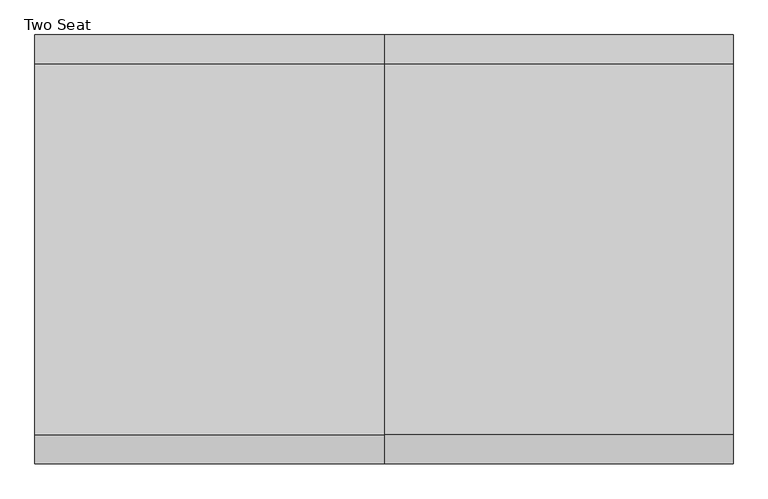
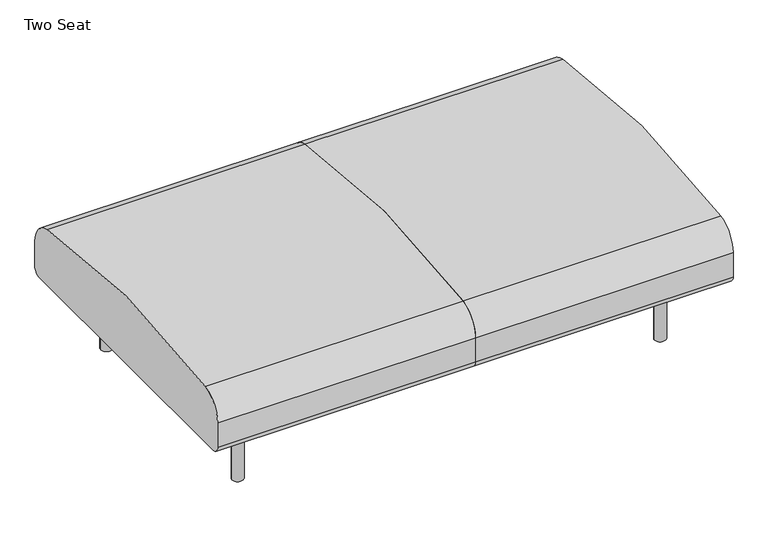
"""IFC4 building model written with IfcOpenShell, lengths in millimetres: furniture geometry, Coalesse_AM_Seating_LoungeChair_Sistema_LegBase_TwoSeat : Two Seat."""

from ifc_helpers import new_model, si_unit, point, frame, frame_2d, origin, origin_with_axes, place, context, project, spatial, polyline, circle_curve, trimmed, segment, composite_curve, outline, extrude, source, transform, mapped, element, save


def two_seat_9187e65d(model_context):
    return source(origin(), model_context, "Body", "SweptSolid", [
        extrude(outline(composite_curve([segment(trimmed(circle_curve(frame_2d((989.1765227, 335.9943389)), 6.096), [point((995.2725227, 335.9943389))], [point((983.0805227, 335.9943389))], False, "CARTESIAN"), True, "CONTINUOUS"), segment(trimmed(circle_curve(frame_2d((989.1765227, 335.9943389)), 6.096), [point((983.0805227, 335.9943389))], [point((995.2725227, 335.9943389))], False, "CARTESIAN"), True, "CONTINUOUS")], self_intersect=False)), origin_with_axes(), (0.0, 0.0, 1.0), 4.3662291),
        extrude(outline(composite_curve([segment(trimmed(circle_curve(frame_2d((989.1765227, -327.2630889)), 6.096), [point((995.2725227, -327.2630889))], [point((983.0805227, -327.2630889))], False, "CARTESIAN"), True, "CONTINUOUS"), segment(trimmed(circle_curve(frame_2d((989.1765227, -327.2630889)), 6.096), [point((983.0805227, -327.2630889))], [point((995.2725227, -327.2630889))], False, "CARTESIAN"), True, "CONTINUOUS")], self_intersect=False)), origin_with_axes(), (0.0, 0.0, 1.0), 4.3662291),
        extrude(outline(composite_curve([segment(polyline([(157.0399209, 1001.756375), (201.7356243, 1001.756375)]), True, "CONTINUOUS"), segment(trimmed(circle_curve(frame_2d((201.7356243, 998.708375)), 3.048), [point((201.7356243, 1001.756375))], [point((204.7836243, 998.708375))], False, "CARTESIAN"), True, "CONTINUOUS"), segment(polyline([(204.7836243, 998.708375), (204.7836243, 979.366199)]), True, "CONTINUOUS"), segment(trimmed(circle_curve(frame_2d((201.7356243, 979.366199)), 3.048), [point((204.7836243, 979.366199))], [point((201.7356243, 976.318199))], False, "CARTESIAN"), True, "CONTINUOUS"), segment(polyline([(201.7356243, 976.318199), (157.1249936, 976.318199)]), True, "CONTINUOUS"), segment(trimmed(circle_curve(frame_2d((157.1249936, 979.4512718)), 3.1330728), [point((157.1249936, 976.318199))], [point((153.9919209, 979.4512718))], False, "CARTESIAN"), True, "CONTINUOUS"), segment(polyline([(153.9919209, 979.4512718), (153.9919209, 998.708375)]), True, "CONTINUOUS"), segment(trimmed(circle_curve(frame_2d((157.0399209, 998.708375)), 3.048), [point((153.9919209, 998.708375))], [point((157.0399209, 1001.756375))], False, "CARTESIAN"), True, "CONTINUOUS")], self_intersect=False)), frame((0.0, 222.3519802, 0.0), z_axis=(0.0, 1.0, 0.0), x_axis=(0.0, 0.0, 1.0)), (0.0, 0.0, 1.0), 92.6273161),
        extrude(outline(composite_curve([segment(polyline([(157.0399209, 1001.756375), (201.7356243, 1001.756375)]), True, "CONTINUOUS"), segment(trimmed(circle_curve(frame_2d((201.7356243, 998.708375)), 3.048), [point((201.7356243, 1001.756375))], [point((204.7836243, 998.708375))], False, "CARTESIAN"), True, "CONTINUOUS"), segment(polyline([(204.7836243, 998.708375), (204.7836243, 979.366199)]), True, "CONTINUOUS"), segment(trimmed(circle_curve(frame_2d((201.7356243, 979.366199)), 3.048), [point((204.7836243, 979.366199))], [point((201.7356243, 976.318199))], False, "CARTESIAN"), True, "CONTINUOUS"), segment(polyline([(201.7356243, 976.318199), (157.1249936, 976.318199)]), True, "CONTINUOUS"), segment(trimmed(circle_curve(frame_2d((157.1249936, 979.4512718)), 3.1330728), [point((157.1249936, 976.318199))], [point((153.9919209, 979.4512718))], False, "CARTESIAN"), True, "CONTINUOUS"), segment(polyline([(153.9919209, 979.4512718), (153.9919209, 998.708375)]), True, "CONTINUOUS"), segment(trimmed(circle_curve(frame_2d((157.0399209, 998.708375)), 3.048), [point((153.9919209, 998.708375))], [point((157.0399209, 1001.756375))], False, "CARTESIAN"), True, "CONTINUOUS")], self_intersect=False)), frame((0.0, -314.9792963, 0.0), z_axis=(0.0, 1.0, 0.0), x_axis=(0.0, 0.0, 1.0)), (0.0, 0.0, 1.0), 92.6273161),
        extrude(outline(composite_curve([segment(trimmed(circle_curve(frame_2d((176.3356606, 966.5259944)), 3.048), [point((179.3836606, 966.5259944))], [point((176.3356606, 963.4779944))], False, "CARTESIAN"), True, "CONTINUOUS"), segment(polyline([(176.3356606, 963.4779944), (157.0399209, 963.4779944)]), True, "CONTINUOUS"), segment(trimmed(circle_curve(frame_2d((157.0399209, 966.5259944)), 3.048), [point((157.0399209, 963.4779944))], [point((153.9919209, 966.5259944))], False, "CARTESIAN"), True, "CONTINUOUS"), segment(polyline([(153.9919209, 966.5259944), (153.9919209, 1011.2135501)]), True, "CONTINUOUS"), segment(trimmed(circle_curve(frame_2d((157.056462, 1011.2135501)), 3.0645412), [point((153.9919209, 1011.2135501))], [point((157.056462, 1014.2780913))], False, "CARTESIAN"), True, "CONTINUOUS"), segment(polyline([(157.056462, 1014.2780913), (176.3356606, 1014.2780913)]), True, "CONTINUOUS"), segment(trimmed(circle_curve(frame_2d((176.3356606, 1011.2300913)), 3.048), [point((176.3356606, 1014.2780913))], [point((179.3836606, 1011.2300913))], False, "CARTESIAN"), True, "CONTINUOUS"), segment(polyline([(179.3836606, 1011.2300913), (179.3836606, 966.5259944)]), True, "CONTINUOUS")], self_intersect=False)), frame((0.0, -222.3519802, 0.0), z_axis=(0.0, 1.0, 0.0), x_axis=(0.0, 0.0, 1.0)), (0.0, 0.0, 1.0), 444.7039604),
        extrude(outline(composite_curve([segment(trimmed(circle_curve(frame_2d((989.1765227, 332.3095741)), 16.51), [point((1005.6865227, 332.3095741))], [point((972.6665227, 332.3095741))], False, "CARTESIAN"), True, "CONTINUOUS"), segment(trimmed(circle_curve(frame_2d((989.1765227, 332.3095741)), 16.51), [point((972.6665227, 332.3095741))], [point((1005.6865227, 332.3095741))], False, "CARTESIAN"), True, "CONTINUOUS")], self_intersect=False)), frame((0.0, 0.0, 4.3662291), z_axis=(0.0, 0.0, 1.0), x_axis=(1.0, 0.0, 0.0)), (0.0, 0.0, 1.0), 200.1037709),
        extrude(outline(composite_curve([segment(trimmed(circle_curve(frame_2d((988.7796477, -327.5470741)), 16.51), [point((1005.2896477, -327.5470741))], [point((972.2696477, -327.5470741))], False, "CARTESIAN"), True, "CONTINUOUS"), segment(trimmed(circle_curve(frame_2d((988.7796477, -327.5470741)), 16.51), [point((972.2696477, -327.5470741))], [point((1005.2896477, -327.5470741))], False, "CARTESIAN"), True, "CONTINUOUS")], self_intersect=False)), frame((0.0, 0.0, 4.3662291), z_axis=(0.0, 0.0, 1.0), x_axis=(1.0, 0.0, 0.0)), (0.0, 0.0, 1.0), 200.1037709),
        extrude(outline(composite_curve([segment(trimmed(circle_curve(frame_2d((-438.9184381, 226.822)), 22.352), [point((-438.9184381, 204.47))], [point((-461.2704381, 226.822))], False, "CARTESIAN"), True, "CONTINUOUS"), segment(polyline([(-461.2704381, 226.822), (-461.2704381, 301.4421993)]), True, "CONTINUOUS"), segment(trimmed(circle_curve(frame_2d((-385.0704381, 301.4421993)), 76.2), [point((-461.2704381, 301.4421993))], [point((-398.9279534, 376.3715612))], False, "CARTESIAN"), True, "CONTINUOUS"), segment(trimmed(circle_curve(frame_2d((-0.3717831, -1778.6727457)), 2191.5891461), [point((-398.9279534, 376.3715612))], [point((397.0993513, 376.5719464))], False, "CARTESIAN"), True, "CONTINUOUS"), segment(trimmed(circle_curve(frame_2d((383.2795619, 301.6356173)), 76.2), [point((397.0993513, 376.5719464))], [point((459.4795619, 301.6356173))], False, "CARTESIAN"), True, "CONTINUOUS"), segment(polyline([(459.4795619, 301.6356173), (459.4795619, 226.7871991)]), True, "CONTINUOUS"), segment(trimmed(circle_curve(frame_2d((437.1623628, 226.7871991)), 22.3171991), [point((459.4795619, 226.7871991))], [point((437.1623628, 204.47))], False, "CARTESIAN"), True, "CONTINUOUS"), segment(polyline([(437.1623628, 204.47), (-438.9184381, 204.47)]), True, "CONTINUOUS")], self_intersect=False)), frame((-374.8034773, 0.0, 0.0), z_axis=(1.0, 0.0, 0.0), x_axis=(0.0, 1.0, 0.0)), (0.0, 0.0, 1.0), 749.3),
        extrude(outline(composite_curve([segment(trimmed(circle_curve(frame_2d((-438.9184381, 226.822)), 22.352), [point((-438.9184381, 204.47))], [point((-461.2704381, 226.822))], False, "CARTESIAN"), True, "CONTINUOUS"), segment(polyline([(-461.2704381, 226.822), (-461.2704381, 301.4421993)]), True, "CONTINUOUS"), segment(trimmed(circle_curve(frame_2d((-385.0704381, 301.4421993)), 76.2), [point((-461.2704381, 301.4421993))], [point((-398.9279534, 376.3715612))], False, "CARTESIAN"), True, "CONTINUOUS"), segment(trimmed(circle_curve(frame_2d((-0.3717831, -1778.6727457)), 2191.5891461), [point((-398.9279534, 376.3715612))], [point((397.0993513, 376.5719464))], False, "CARTESIAN"), True, "CONTINUOUS"), segment(trimmed(circle_curve(frame_2d((383.2795619, 301.6356173)), 76.2), [point((397.0993513, 376.5719464))], [point((459.4795619, 301.6356173))], False, "CARTESIAN"), True, "CONTINUOUS"), segment(polyline([(459.4795619, 301.6356173), (459.4795619, 226.7871991)]), True, "CONTINUOUS"), segment(trimmed(circle_curve(frame_2d((437.1623628, 226.7871991)), 22.3171991), [point((459.4795619, 226.7871991))], [point((437.1623628, 204.47))], False, "CARTESIAN"), True, "CONTINUOUS"), segment(polyline([(437.1623628, 204.47), (-438.9184381, 204.47)]), True, "CONTINUOUS")], self_intersect=False)), frame((374.4965227, 0.0, 0.0), z_axis=(1.0, 0.0, 0.0), x_axis=(0.0, 1.0, 0.0)), (0.0, 0.0, 1.0), 749.3),
        extrude(outline(composite_curve([segment(trimmed(circle_curve(frame_2d((-240.1834773, 335.9943389)), 6.096), [point((-246.2794773, 335.9943389))], [point((-234.0874773, 335.9943389))], False, "CARTESIAN"), True, "CONTINUOUS"), segment(trimmed(circle_curve(frame_2d((-240.1834773, 335.9943389)), 6.096), [point((-234.0874773, 335.9943389))], [point((-246.2794773, 335.9943389))], False, "CARTESIAN"), True, "CONTINUOUS")], self_intersect=False)), origin_with_axes(), (0.0, 0.0, 1.0), 4.3662291),
        extrude(outline(composite_curve([segment(trimmed(circle_curve(frame_2d((-240.1834773, -327.2630889)), 6.096), [point((-246.2794773, -327.2630889))], [point((-234.0874773, -327.2630889))], False, "CARTESIAN"), True, "CONTINUOUS"), segment(trimmed(circle_curve(frame_2d((-240.1834773, -327.2630889)), 6.096), [point((-234.0874773, -327.2630889))], [point((-246.2794773, -327.2630889))], False, "CARTESIAN"), True, "CONTINUOUS")], self_intersect=False)), origin_with_axes(), (0.0, 0.0, 1.0), 4.3662291),
        extrude(outline(composite_curve([segment(trimmed(circle_curve(frame_2d((157.0399209, -249.7153296)), 3.048), [point((157.0399209, -252.7633296))], [point((153.9919209, -249.7153296))], False, "CARTESIAN"), True, "CONTINUOUS"), segment(polyline([(153.9919209, -249.7153296), (153.9919209, -230.4582264)]), True, "CONTINUOUS"), segment(trimmed(circle_curve(frame_2d((157.1249936, -230.4582264)), 3.1330728), [point((153.9919209, -230.4582264))], [point((157.1249936, -227.3251537))], False, "CARTESIAN"), True, "CONTINUOUS"), segment(polyline([(157.1249936, -227.3251537), (201.7356243, -227.3251537)]), True, "CONTINUOUS"), segment(trimmed(circle_curve(frame_2d((201.7356243, -230.3731537)), 3.048), [point((201.7356243, -227.3251537))], [point((204.7836243, -230.3731537))], False, "CARTESIAN"), True, "CONTINUOUS"), segment(polyline([(204.7836243, -230.3731537), (204.7836243, -249.7153296)]), True, "CONTINUOUS"), segment(trimmed(circle_curve(frame_2d((201.7356243, -249.7153296)), 3.048), [point((204.7836243, -249.7153296))], [point((201.7356243, -252.7633296))], False, "CARTESIAN"), True, "CONTINUOUS"), segment(polyline([(201.7356243, -252.7633296), (157.0399209, -252.7633296)]), True, "CONTINUOUS")], self_intersect=False)), frame((0.0, 222.3519802, 0.0), z_axis=(0.0, 1.0, 0.0), x_axis=(0.0, 0.0, 1.0)), (0.0, 0.0, 1.0), 92.6273161),
        extrude(outline(composite_curve([segment(trimmed(circle_curve(frame_2d((157.0399209, -249.7153296)), 3.048), [point((157.0399209, -252.7633296))], [point((153.9919209, -249.7153296))], False, "CARTESIAN"), True, "CONTINUOUS"), segment(polyline([(153.9919209, -249.7153296), (153.9919209, -230.4582264)]), True, "CONTINUOUS"), segment(trimmed(circle_curve(frame_2d((157.1249936, -230.4582264)), 3.1330728), [point((153.9919209, -230.4582264))], [point((157.1249936, -227.3251537))], False, "CARTESIAN"), True, "CONTINUOUS"), segment(polyline([(157.1249936, -227.3251537), (201.7356243, -227.3251537)]), True, "CONTINUOUS"), segment(trimmed(circle_curve(frame_2d((201.7356243, -230.3731537)), 3.048), [point((201.7356243, -227.3251537))], [point((204.7836243, -230.3731537))], False, "CARTESIAN"), True, "CONTINUOUS"), segment(polyline([(204.7836243, -230.3731537), (204.7836243, -249.7153296)]), True, "CONTINUOUS"), segment(trimmed(circle_curve(frame_2d((201.7356243, -249.7153296)), 3.048), [point((204.7836243, -249.7153296))], [point((201.7356243, -252.7633296))], False, "CARTESIAN"), True, "CONTINUOUS"), segment(polyline([(201.7356243, -252.7633296), (157.0399209, -252.7633296)]), True, "CONTINUOUS")], self_intersect=False)), frame((0.0, -314.9792963, 0.0), z_axis=(0.0, 1.0, 0.0), x_axis=(0.0, 0.0, 1.0)), (0.0, 0.0, 1.0), 92.6273161),
        extrude(outline(composite_curve([segment(polyline([(179.3836606, -217.532949), (179.3836606, -262.2370459)]), True, "CONTINUOUS"), segment(trimmed(circle_curve(frame_2d((176.3356606, -262.2370459)), 3.048), [point((179.3836606, -262.2370459))], [point((176.3356606, -265.2850459))], False, "CARTESIAN"), True, "CONTINUOUS"), segment(polyline([(176.3356606, -265.2850459), (157.056462, -265.2850459)]), True, "CONTINUOUS"), segment(trimmed(circle_curve(frame_2d((157.056462, -262.2205047)), 3.0645412), [point((157.056462, -265.2850459))], [point((153.9919209, -262.2205047))], False, "CARTESIAN"), True, "CONTINUOUS"), segment(polyline([(153.9919209, -262.2205047), (153.9919209, -217.532949)]), True, "CONTINUOUS"), segment(trimmed(circle_curve(frame_2d((157.0399209, -217.532949)), 3.048), [point((153.9919209, -217.532949))], [point((157.0399209, -214.484949))], False, "CARTESIAN"), True, "CONTINUOUS"), segment(polyline([(157.0399209, -214.484949), (176.3356606, -214.484949)]), True, "CONTINUOUS"), segment(trimmed(circle_curve(frame_2d((176.3356606, -217.532949)), 3.048), [point((176.3356606, -214.484949))], [point((179.3836606, -217.532949))], False, "CARTESIAN"), True, "CONTINUOUS")], self_intersect=False)), frame((0.0, -222.3519802, 0.0), z_axis=(0.0, 1.0, 0.0), x_axis=(0.0, 0.0, 1.0)), (0.0, 0.0, 1.0), 444.7039604),
        extrude(outline(composite_curve([segment(trimmed(circle_curve(frame_2d((-240.1834773, 332.3095741)), 16.51), [point((-256.6934773, 332.3095741))], [point((-223.6734773, 332.3095741))], False, "CARTESIAN"), True, "CONTINUOUS"), segment(trimmed(circle_curve(frame_2d((-240.1834773, 332.3095741)), 16.51), [point((-223.6734773, 332.3095741))], [point((-256.6934773, 332.3095741))], False, "CARTESIAN"), True, "CONTINUOUS")], self_intersect=False)), frame((0.0, 0.0, 4.3662291), z_axis=(0.0, 0.0, 1.0), x_axis=(1.0, 0.0, 0.0)), (0.0, 0.0, 1.0), 200.1037709),
        extrude(outline(composite_curve([segment(trimmed(circle_curve(frame_2d((-239.7866023, -327.5470741)), 16.51), [point((-256.2966023, -327.5470741))], [point((-223.2766023, -327.5470741))], False, "CARTESIAN"), True, "CONTINUOUS"), segment(trimmed(circle_curve(frame_2d((-239.7866023, -327.5470741)), 16.51), [point((-223.2766023, -327.5470741))], [point((-256.2966023, -327.5470741))], False, "CARTESIAN"), True, "CONTINUOUS")], self_intersect=False)), frame((0.0, 0.0, 4.3662291), z_axis=(0.0, 0.0, 1.0), x_axis=(1.0, 0.0, 0.0)), (0.0, 0.0, 1.0), 200.1037709),
    ])


if __name__ == "__main__":
    model = new_model("IFC4")
    model_context = context("Model", 3, world=origin())
    ifc_project = project(units=[si_unit("LENGTHUNIT", "METRE", prefix="MILLI")], contexts=[model_context])
    site = spatial("IfcSite", under=ifc_project)
    building = spatial("IfcBuilding", under=site)
    placement = place(None, origin())
    two_seat_shape = two_seat_9187e65d(model_context)
    element("IfcFurniture", 1, ObjectType="Coalesse_AM_Seating_LoungeChair_Sistema_LegBase_TwoSeat : Two Seat", at=placement, inside=building, context=model_context, shape_type="MappedRepresentation", body=[
        mapped(two_seat_shape, transform((0.0, 0.0, 0.0), x_axis=(1.0, 0.0, 0.0), y_axis=(0.0, 1.0, 0.0), z_axis=(0.0, 0.0, 1.0))),
    ])
    save(model, "model.ifc")
